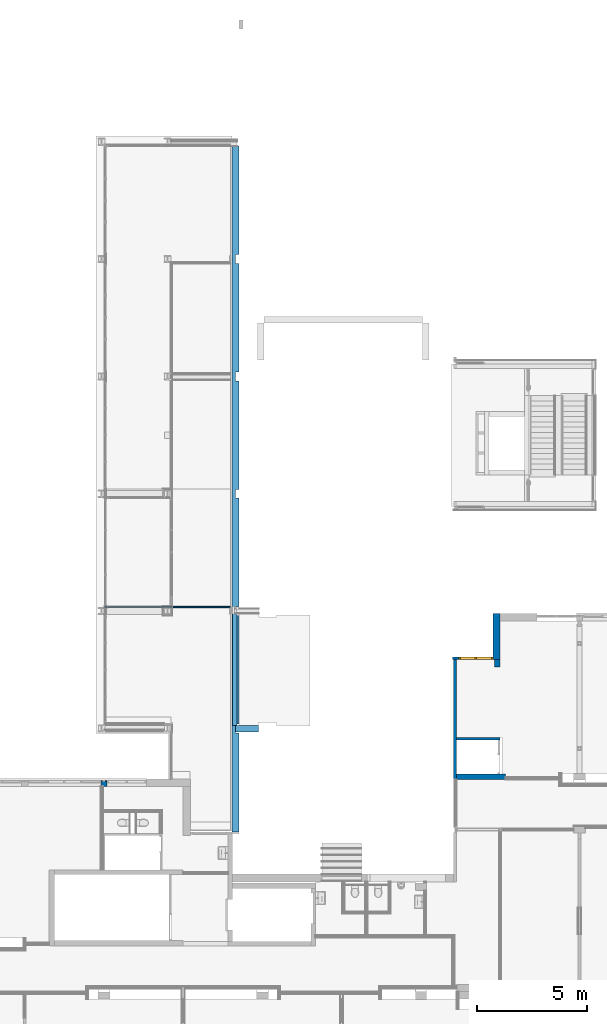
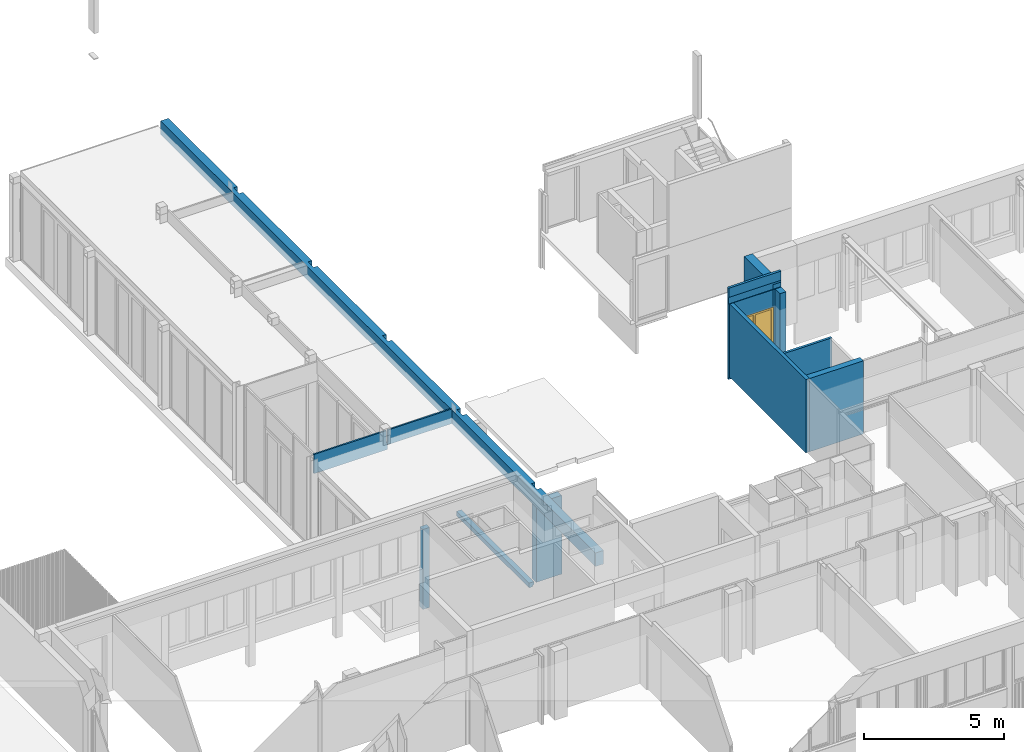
# One storey, part 48 of 99: 12 walls, 1 window, 1 opening.
"""IFC2X3 building model written with IfcOpenShell, lengths in millimetres."""

from ifc_helpers import new_model, entity, si_unit, converted_unit, derived_unit, money_unit, direction, frame, origin_with_axes, place, context, subcontext, project, spatial, open_shell, faceted_brep, surface_model, material, type_object, element, fill, save


model = new_model("IFC2X3")

# Units and contexts
model_context = context("Model", 3, precision=0.01, world=origin_with_axes(), true_north=direction((0.0, 1.0)))
body_context = subcontext(model_context, "Body", "Model", "MODEL_VIEW")
ifc_project = project(units=[si_unit("LENGTHUNIT", "METRE", prefix="MILLI"), si_unit("AREAUNIT", "SQUARE_METRE"), si_unit("VOLUMEUNIT", "CUBIC_METRE"), converted_unit("PLANEANGLEUNIT", "DEGREE", entity("IfcPlaneAngleMeasure", 0.0174532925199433), si_unit("PLANEANGLEUNIT", "RADIAN"), dimensions=[0, 0, 0, 0, 0, 0, 0]), money_unit("EUR"), converted_unit("TIMEUNIT", "Year", entity("IfcTimeMeasure", 31557600.0), si_unit("TIMEUNIT", "SECOND"), dimensions=[0, 0, 1, 0, 0, 0, 0]), si_unit("MASSUNIT", "GRAM", prefix="KILO"), si_unit("THERMODYNAMICTEMPERATUREUNIT", "DEGREE_CELSIUS"), si_unit("LUMINOUSINTENSITYUNIT", "LUMEN"), si_unit("ENERGYUNIT", "JOULE", prefix="MEGA"), derived_unit("THERMALCONDUCTANCEUNIT", [(si_unit("POWERUNIT", "WATT"), 1), (si_unit("LENGTHUNIT", "METRE"), -1), (si_unit("THERMODYNAMICTEMPERATUREUNIT", "KELVIN"), -1)]), derived_unit("SPECIFICHEATCAPACITYUNIT", [(si_unit("ENERGYUNIT", "JOULE"), 1), (si_unit("MASSUNIT", "GRAM", prefix="KILO"), -1), (si_unit("THERMODYNAMICTEMPERATUREUNIT", "KELVIN"), -1)]), derived_unit("MASSDENSITYUNIT", [(si_unit("MASSUNIT", "GRAM", prefix="KILO"), 1), (si_unit("VOLUMEUNIT", "CUBIC_METRE"), -1)])], contexts=[model_context])

# Site, building, storey
site_placement = place(None, origin_with_axes())
site = spatial("IfcSite", under=ifc_project, at=site_placement, Name="Site", CompositionType="ELEMENT")
building_placement = place(site_placement, origin_with_axes())
building = spatial("IfcBuilding", under=site, at=building_placement, Name="Naam gebouw", CompositionType="ELEMENT")
storey_placement = place(building_placement, frame((0.0, 0.0, 7650.0), z_axis=(0.0, 0.0, 1.0), x_axis=(1.0, 0.0, 0.0)))
storey = spatial("IfcBuildingStorey", under=building, at=storey_placement, Name="2e verdieping N", CompositionType="ELEMENT", Elevation=7650.0)

# Walls
ifc_material_1 = material(Name="ALG - CONSTRUCTIEF")
wall_type_1 = type_object("IfcWallType", Name="ALG - CONSTRUCTIEF 150", PredefinedType="NOTDEFINED")
wall_1_placement = place(storey_placement, frame((30425.0, 25760.89702607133, -99.99999999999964), z_axis=(0.0, 0.0, 1.0), x_axis=(0.0, -1.0, 0.0)))
element("IfcWall", 1, at=wall_1_placement, inside=storey, type_object=wall_type_1, material=ifc_material_1, Name="_Wand-x", context=body_context, shape_type="Brep", body=[
    faceted_brep([(0.0, -149.9999999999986, 99.99999999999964), (0.0, -149.9999999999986, 3299.999999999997), (0.0, 0.0, 3299.999999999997), (0.0, 0.0, 99.99999999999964), (5459.984600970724, -150.0000000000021, 99.99999999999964), (5459.984600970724, -150.0000000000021, 3299.999999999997), (5459.984600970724, 0.0, 3299.999999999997), (5459.984600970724, 0.0, 99.99999999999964)], [[[0, 1, 2, 3]], [[4, 5, 1, 0]], [[5, 6, 2, 1]], [[3, 2, 6, 7]], [[4, 0, 3, 7]], [[7, 6, 5, 4]]]),
])
wall_type_2 = type_object("IfcWallType", Name="ALG - CONSTRUCTIEF 100", PredefinedType="NOTDEFINED")
wall_2_placement = place(storey_placement, frame((32299.99999999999, 22106.91242510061, -99.99999999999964), z_axis=(0.0, 0.0, 1.0), x_axis=(-1.0, 0.0, 0.0)))
element("IfcWall", 2, at=wall_2_placement, inside=storey, type_object=wall_type_2, material=ifc_material_1, Name="_Wand-x", context=body_context, shape_type="Brep", body=[
    faceted_brep([(1874.999999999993, -100.0000000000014, 99.99999999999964), (1874.999999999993, -100.0000000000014, 3299.999999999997), (-100.0000000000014, -100.0000000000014, 3299.999999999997), (-100.0000000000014, -100.0000000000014, 99.99999999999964), (1874.999999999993, 0.0, 99.99999999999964), (1874.999999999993, 0.0, 3299.999999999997), (-100.0000000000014, 0.0, 3299.999999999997), (-100.0000000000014, 0.0, 99.99999999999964)], [[[0, 1, 2, 3]], [[4, 5, 1, 0]], [[5, 6, 2, 1]], [[3, 2, 6, 7]], [[4, 0, 3, 7]], [[7, 6, 5, 4]]]),
])

# Wall, opening, window
wall_3_placement = place(storey_placement, frame((32399.99999999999, 25760.89702607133, -99.99999999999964), z_axis=(0.0, 0.0, 1.0), x_axis=(-1.0, 0.0, 0.0)))
wall_3 = element("IfcWall", 3, at=wall_3_placement, inside=storey, type_object=wall_type_2, material=ifc_material_1, Name="_Wand-x", context=body_context, shape_type="Brep", body=[
    faceted_brep([(329.9999999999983, 0.0, 2540.000000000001), (329.9999999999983, -100.0000000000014, 2540.000000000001), (329.9999999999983, -100.0000000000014, 3500.0), (329.9999999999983, -20.51750883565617, 3500.0), (329.9999999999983, -20.51750883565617, 3299.999999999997), (329.9999999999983, 0.0, 3299.999999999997), (1874.999999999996, -100.0000000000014, 2540.000000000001), (1874.999999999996, 0.0, 2540.000000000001), (1874.999999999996, -100.0000000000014, 820.0000000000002), (329.9999999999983, -100.0000000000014, 820.0000000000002), (329.9999999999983, -100.0000000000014, 0.0), (2163.999999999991, -100.0000000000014, 0.0), (2163.999999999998, -100.0000000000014, 4000.0), (0.0, -100.0000000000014, 4000.0), (0.0, -100.0000000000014, 3500.0), (0.0, -20.51750883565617, 3500.0), (2163.999999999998, -20.51750883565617, 3599.999999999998), (2163.999999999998, -20.51750883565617, 3299.999999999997), (0.0, -20.51750883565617, 3599.999999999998), (2163.999999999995, 0.0, 3299.999999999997), (2163.999999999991, 0.0, 1139.999999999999), (2163.999999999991, 0.0, 99.99999999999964), (329.9999999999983, 0.0, 99.99999999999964), (329.9999999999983, 0.0, 820.0000000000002), (1874.999999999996, 0.0, 820.0000000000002), (329.9999999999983, -20.51750883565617, 99.99999999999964), (329.9999999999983, -20.51750883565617, 0.0), (2163.999999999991, -20.51750883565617, 0.0), (2163.999999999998, 0.0, 3599.999999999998), (2163.999999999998, 0.0, 4000.0), (2163.999999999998, -20.51750883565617, 99.99999999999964), (0.0, 0.0, 4000.0), (0.0, 0.0, 3599.999999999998)], [[[0, 1, 2, 3, 4, 5]], [[6, 1, 0, 7]], [[8, 9, 10, 11, 12, 13, 14, 2, 1, 6]], [[15, 3, 2, 14]], [[16, 17, 4, 3, 15, 18]], [[5, 4, 17, 19]], [[7, 0, 5, 19, 20, 21, 22, 23, 24]], [[8, 6, 7, 24]], [[23, 9, 8, 24]], [[9, 23, 22, 25, 26, 10]], [[26, 27, 11, 10]], [[21, 20, 19, 17, 16, 28, 29, 12, 11, 27, 30]], [[13, 12, 29, 31]], [[14, 13, 31, 32, 18, 15]], [[18, 32, 28, 16]], [[25, 22, 21, 30]], [[26, 25, 30, 27]], [[28, 32, 31, 29]]]),
])
opening_placement = place(wall_3_placement, frame((1102.499999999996, 0.0, 820.0000000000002), z_axis=(0.0, 0.0, 1.0), x_axis=(1.0, 0.0, 0.0)))
opening = element("IfcOpeningElement", 4, at=opening_placement, cuts=wall_3, Name="_Merk-050", context=body_context, shape_type="Brep", body=[
    faceted_brep([(772.5000000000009, 1.000000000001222, 1720.000000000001), (772.5000000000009, 1.000000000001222, 0.0), (-772.4999999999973, 1.000000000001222, 0.0), (-772.4999999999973, 1.000000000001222, 1720.000000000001), (772.5000000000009, -101.0000000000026, 1720.000000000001), (772.5000000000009, -101.0000000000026, 0.0), (-772.4999999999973, -101.0000000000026, 0.0), (-772.4999999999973, -101.0000000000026, 1720.000000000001)], [[[0, 1, 2, 3]], [[4, 5, 1, 0]], [[5, 6, 2, 1]], [[6, 7, 3, 2]], [[7, 4, 0, 3]], [[6, 5, 4, 7]]]),
])
window_style = type_object("IfcWindowStyle", Name="R2 bl ol 26", ConstructionType="NOTDEFINED", OperationType="DOUBLE_PANEL_VERTICAL", ParameterTakesPrecedence=False, Sizeable=False)
window_placement = place(opening_placement, frame((-772.4999999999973, 0.0, 0.0), z_axis=(0.0, 0.0, 1.0), x_axis=(1.0, 0.0, 0.0)))
window = element("IfcWindow", 5, at=window_placement, inside=storey, type_object=window_style, Name="_Merk-050", ObjectType="WINDOW", OverallHeight=1720.0, OverallWidth=1545.0, context=body_context, shape_type="SurfaceModel", body=[
    faceted_brep([(67.00000000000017, -100.0000000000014, 1653.0), (67.00000000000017, 13.99999999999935, 1653.0), (0.0, 13.99999999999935, 1653.0), (0.0, -100.0000000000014, 1653.0), (67.00000000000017, -100.0000000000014, 67.00000000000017), (67.00000000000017, 13.99999999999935, 67.00000000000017), (0.0, 13.99999999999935, 67.00000000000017), (0.0, -100.0000000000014, 67.00000000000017)], [[[0, 1, 2, 3]], [[4, 5, 1, 0]], [[1, 5, 6, 2]], [[3, 2, 6, 7]], [[0, 3, 7, 4]], [[7, 6, 5, 4]]]),
    faceted_brep([(1477.999999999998, -100.0000000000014, 67.00000000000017), (1477.999999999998, 13.99999999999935, 67.00000000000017), (1544.999999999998, 13.99999999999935, 67.00000000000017), (1544.999999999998, -100.0000000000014, 67.00000000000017), (1477.999999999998, -100.0000000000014, 1653.0), (1477.999999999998, 13.99999999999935, 1653.0), (1544.999999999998, 13.99999999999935, 1653.0), (1544.999999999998, -100.0000000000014, 1653.0)], [[[0, 1, 2, 3]], [[4, 5, 1, 0]], [[1, 5, 6, 2]], [[3, 2, 6, 7]], [[0, 3, 7, 4]], [[7, 6, 5, 4]]]),
    faceted_brep([(738.9999999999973, -100.0000000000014, 67.00000000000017), (738.9999999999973, 13.99999999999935, 67.00000000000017), (805.9999999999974, 13.99999999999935, 67.00000000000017), (805.9999999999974, -100.0000000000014, 67.00000000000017), (738.9999999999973, -100.0000000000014, 1653.0), (738.9999999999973, 13.99999999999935, 1653.0), (805.9999999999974, 13.99999999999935, 1653.0), (805.9999999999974, -100.0000000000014, 1653.0)], [[[0, 1, 2, 3]], [[4, 5, 1, 0]], [[1, 5, 6, 2]], [[3, 2, 6, 7]], [[0, 3, 7, 4]], [[7, 6, 5, 4]]]),
    faceted_brep([(67.00000000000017, -100.0000000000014, 67.00000000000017), (67.00000000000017, 13.99999999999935, 67.00000000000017), (0.0, 13.99999999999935, 67.00000000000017), (0.0, -100.0000000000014, 67.00000000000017), (738.9999999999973, -100.0000000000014, 67.00000000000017), (738.9999999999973, 13.99999999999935, 67.00000000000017), (805.9999999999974, 13.99999999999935, 67.00000000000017), (1477.999999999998, 13.99999999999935, 67.00000000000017), (1544.999999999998, 13.99999999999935, 67.00000000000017), (1544.999999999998, 13.99999999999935, 0.0), (0.0, 13.99999999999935, 0.0), (0.0, -100.0000000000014, 0.0), (1544.999999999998, -100.0000000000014, 0.0), (1544.999999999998, -100.0000000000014, 67.00000000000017), (1477.999999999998, -100.0000000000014, 67.00000000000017), (805.9999999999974, -100.0000000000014, 67.00000000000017)], [[[0, 1, 2, 3]], [[4, 5, 1, 0]], [[1, 5, 6, 7, 8, 9, 10, 2]], [[3, 2, 10, 11]], [[0, 3, 11, 12, 13, 14, 15, 4]], [[15, 6, 5, 4]], [[14, 7, 6, 15]], [[13, 8, 7, 14]], [[12, 9, 8, 13]], [[11, 10, 9, 12]]]),
    faceted_brep([(738.9999999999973, -100.0000000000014, 1653.0), (738.9999999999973, 13.99999999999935, 1653.0), (805.9999999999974, 13.99999999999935, 1653.0), (805.9999999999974, -100.0000000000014, 1653.0), (67.00000000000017, -100.0000000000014, 1653.0), (67.00000000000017, 13.99999999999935, 1653.0), (0.0, 13.99999999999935, 1653.0), (0.0, 13.99999999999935, 1720.000000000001), (1544.999999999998, 13.99999999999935, 1720.000000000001), (1544.999999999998, 13.99999999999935, 1653.0), (1477.999999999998, 13.99999999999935, 1653.0), (1477.999999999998, -100.0000000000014, 1653.0), (1544.999999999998, -100.0000000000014, 1653.0), (1544.999999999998, -100.0000000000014, 1720.000000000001), (0.0, -100.0000000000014, 1720.000000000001), (0.0, -100.0000000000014, 1653.0)], [[[0, 1, 2, 3]], [[4, 5, 1, 0]], [[1, 5, 6, 7, 8, 9, 10, 2]], [[3, 2, 10, 11]], [[0, 3, 11, 12, 13, 14, 15, 4]], [[15, 6, 5, 4]], [[14, 7, 6, 15]], [[13, 8, 7, 14]], [[12, 9, 8, 13]], [[11, 10, 9, 12]]]),
    surface_model("IfcShellBasedSurfaceModel", [(67.00000000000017, -50.00000000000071, 67.00000000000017), (738.9999999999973, -50.00000000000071, 67.00000000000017), (738.9999999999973, -50.00000000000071, 1653.0), (67.00000000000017, -50.00000000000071, 1653.0)], [open_shell([[[0, 1, 2, 3]]])]),
    surface_model("IfcShellBasedSurfaceModel", [(67.00000000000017, -30.00000000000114, 67.00000000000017), (67.00000000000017, -30.00000000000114, 1653.0), (738.9999999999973, -30.00000000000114, 1653.0), (738.9999999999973, -30.00000000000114, 67.00000000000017)], [open_shell([[[0, 1, 2, 3]]])]),
    surface_model("IfcShellBasedSurfaceModel", [(805.9999999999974, -50.00000000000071, 67.00000000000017), (1477.999999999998, -50.00000000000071, 67.00000000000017), (1477.999999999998, -50.00000000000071, 1653.0), (805.9999999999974, -50.00000000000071, 1653.0)], [open_shell([[[0, 1, 2, 3]]])]),
    surface_model("IfcShellBasedSurfaceModel", [(805.9999999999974, -30.00000000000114, 67.00000000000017), (805.9999999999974, -30.00000000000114, 1653.0), (1477.999999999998, -30.00000000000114, 1653.0), (1477.999999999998, -30.00000000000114, 67.00000000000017)], [open_shell([[[0, 1, 2, 3]]])]),
])
fill(opening, window)

# Walls
wall_type_3 = type_object("IfcWallType", Name="ALG - CONSTRUCTIEF 330", PredefinedType="NOTDEFINED")
wall_4_placement = place(storey_placement, frame((32399.99999999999, 27505.91242510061, -99.99999999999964), z_axis=(0.0, 0.0, 1.0), x_axis=(0.0, -1.0, 0.0)))
element("IfcWall", 6, at=wall_4_placement, inside=storey, type_object=wall_type_3, material=ifc_material_1, Name="_Wand-x", context=body_context, shape_type="Brep", body=[
    faceted_brep([(-329.9999999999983, -329.9999999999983, 3500.0), (1724.497890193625, -329.9999999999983, 3500.0), (1724.497890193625, 0.0, 3500.0), (-329.9999999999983, 0.0, 3500.0), (1745.015399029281, -329.9999999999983, 3299.999999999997), (1724.497890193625, -329.9999999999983, 3299.999999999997), (-329.9999999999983, -329.9999999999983, 0.0), (1724.497890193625, -329.9999999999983, 0.0), (1724.497890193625, -329.9999999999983, 99.99999999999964), (1745.015399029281, -329.9999999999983, 99.99999999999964), (1724.497890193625, 0.0, 3299.999999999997), (1745.015399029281, 0.0, 3299.999999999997), (1745.015399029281, 0.0, 99.99999999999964), (1724.497890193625, 0.0, 99.99999999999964), (1724.497890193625, 0.0, 0.0), (-329.9999999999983, 0.0, 0.0)], [[[0, 1, 2, 3]], [[4, 5, 1, 0, 6, 7, 8, 9]], [[5, 10, 2, 1]], [[2, 10, 11, 12, 13, 14, 15, 3]], [[15, 6, 0, 3]], [[4, 11, 10, 5]], [[15, 14, 7, 6]], [[7, 14, 13, 8]], [[8, 13, 12, 9]], [[12, 11, 4, 9]]]),
])
wall_5_placement = place(storey_placement, frame((20536.00000000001, 49075.9124251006, 0.0), z_axis=(0.0, 0.0, 1.0), x_axis=(0.0, -1.0, 0.0)))
element("IfcWall", 7, at=wall_5_placement, inside=storey, type_object=wall_type_3, material=ifc_material_1, Name="_Wand-x", context=body_context, shape_type="Brep", body=[
    faceted_brep([(5329.999999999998, 0.0, 589.9999999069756), (5329.999999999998, -150.0000000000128, 589.9999999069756), (4929.999999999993, -150.0000000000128, 589.9999999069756), (4929.999999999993, 0.0, 589.9999999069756), (0.0, 0.0, 589.9999999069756), (0.0, -329.9999999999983, 589.9999999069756), (31151.16119858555, -330.0000000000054, 589.9999999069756), (31151.16119858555, 0.0, 589.9999999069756), (26655.81461670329, 0.0, 589.9999999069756), (26655.81461670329, -150.0000000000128, 589.9999999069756), (26255.81461670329, -150.0000000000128, 589.9999999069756), (26255.81461670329, 0.0, 589.9999999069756), (21319.99999999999, 0.0, 589.9999999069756), (21319.99999999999, -150.0000000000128, 589.9999999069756), (20919.99999999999, -150.0000000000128, 589.9999999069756), (20919.99999999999, 0.0, 589.9999999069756), (15989.99999999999, 0.0, 589.9999999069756), (15989.99999999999, -150.0000000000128, 589.9999999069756), (15589.99999999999, -150.0000000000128, 589.9999999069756), (15589.99999999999, 0.0, 589.9999999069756), (10660.0, 0.0, 589.9999999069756), (10660.0, -150.0000000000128, 589.9999999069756), (10259.99999999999, -150.0000000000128, 589.9999999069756), (10259.99999999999, 0.0, 589.9999999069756), (5329.999999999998, -150.0000000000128, 0.0), (5329.999999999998, 0.0, 0.0), (4929.999999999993, -150.0000000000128, 0.0), (4929.999999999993, 0.0, 0.0), (0.0, 0.0, 0.0), (0.0, -329.9999999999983, 0.0), (31151.16119858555, -330.0000000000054, 0.0), (31151.16119858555, 0.0, 0.0), (26655.81461670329, 0.0, 0.0), (26655.81461670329, -150.0000000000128, 0.0), (26255.81461670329, -150.0000000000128, 0.0), (26255.81461670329, 0.0, 0.0), (21319.99999999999, 0.0, 0.0), (21319.99999999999, -150.0000000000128, 0.0), (20919.99999999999, -150.0000000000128, 0.0), (20919.99999999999, 0.0, 0.0), (15989.99999999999, 0.0, 0.0), (15989.99999999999, -150.0000000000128, 0.0), (15589.99999999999, -150.0000000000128, 0.0), (15589.99999999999, 0.0, 0.0), (10660.0, 0.0, 0.0), (10660.0, -150.0000000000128, 0.0), (10259.99999999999, -150.0000000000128, 0.0), (10259.99999999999, 0.0, 0.0), (21688.11863500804, -162.5000000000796, 0.0), (21853.88105573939, -162.5000000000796, 0.0), (21853.88105573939, -152.5000000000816, 0.0), (21688.11863500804, -152.5000000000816, 0.0), (25655.79166119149, -177.5000000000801, 0.0), (25821.55408192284, -177.5000000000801, 0.0), (25821.55408192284, -167.5000000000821, 0.0), (25655.79166119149, -167.5000000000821, 0.0), (21160.0, -162.5000000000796, 524.8670982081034), (21099.67269568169, -162.5000000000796, 445.1136258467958), (21160.0, -152.5000000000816, 524.8670982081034), (21099.67269568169, -152.5000000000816, 445.1136258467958), (26410.00002124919, -177.5000000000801, 445.1136258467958), (26349.67271693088, -177.5000000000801, 524.8670982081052), (26410.00002124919, -167.5000000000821, 445.1136258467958), (26349.67271693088, -167.5000000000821, 524.8670982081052)], [[[0, 1, 2, 3, 4, 5, 6, 7, 8, 9, 10, 11, 12, 13, 14, 15, 16, 17, 18, 19, 20, 21, 22, 23]], [[24, 1, 0, 25]], [[26, 2, 1, 24]], [[26, 27, 3, 2]], [[4, 3, 27, 28]], [[28, 29, 5, 4]], [[5, 29, 30, 6]], [[31, 7, 6, 30]], [[31, 32, 8, 7]], [[33, 9, 8, 32]], [[34, 10, 9, 33]], [[34, 35, 11, 10]], [[35, 36, 12, 11]], [[37, 13, 12, 36]], [[38, 14, 13, 37]], [[38, 39, 15, 14]], [[39, 40, 16, 15]], [[41, 17, 16, 40]], [[42, 18, 17, 41]], [[42, 43, 19, 18]], [[43, 44, 20, 19]], [[45, 21, 20, 44]], [[46, 22, 21, 45]], [[46, 47, 23, 22]], [[47, 25, 0, 23]], [[26, 24, 25, 47, 46, 45, 44, 43, 42, 41, 40, 39, 38, 37, 36, 35, 34, 33, 32, 31, 30, 29, 28, 27], [48, 49, 50, 51], [52, 53, 54, 55]], [[56, 49, 48, 57]], [[58, 50, 49, 56]], [[59, 51, 50, 58]], [[57, 48, 51, 59]], [[60, 53, 52, 61]], [[62, 54, 53, 60]], [[63, 55, 54, 62]], [[61, 52, 55, 63]], [[56, 57, 59, 58]], [[63, 62, 60, 61]]]),
])
wall_type_4 = type_object("IfcWallType", Name="ALG - CONSTRUCTIEF 250", PredefinedType="NOTDEFINED")
wall_6_placement = place(storey_placement, frame((30425.0, 20550.91242510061, -99.99999999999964), z_axis=(0.0, 0.0, 1.0), x_axis=(1.0, 0.0, 0.0)))
element("IfcWall", 8, at=wall_6_placement, inside=storey, type_object=wall_type_4, material=ifc_material_1, Name="_Wand-x", context=body_context, shape_type="Brep", body=[
    faceted_brep([(0.0, 0.0, 99.99999999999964), (0.0, 0.0, 3299.999999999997), (2224.999953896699, 0.0, 3299.999999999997), (2224.999953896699, 0.0, 99.99999999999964), (0.0, -250.0, 99.99999999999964), (0.0, -250.0, 3299.999999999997), (2224.999953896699, -250.0, 3299.999999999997), (2224.999953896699, -250.0, 99.99999999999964)], [[[0, 1, 2, 3]], [[4, 5, 1, 0]], [[5, 6, 2, 1]], [[3, 2, 6, 7]], [[4, 0, 3, 7]], [[7, 6, 5, 4]]]),
])
wall_7_placement = place(storey_placement, frame((32274.99999999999, 25420.91242510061, -99.99999999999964), z_axis=(0.0, 0.0, 1.0), x_axis=(0.0, 1.0, 0.0)))
element("IfcWall", 9, at=wall_7_placement, inside=storey, type_object=wall_type_4, material=ifc_material_1, Name="_Wand-x", context=body_context, shape_type="Brep", body=[
    faceted_brep([(339.9846009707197, 125.0, 99.99999999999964), (339.9846009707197, 125.0, 3299.999999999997), (339.9846009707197, -125.0, 3299.999999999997), (339.9846009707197, -125.0, 99.99999999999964), (0.0, 125.0, 99.99999999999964), (0.0, 125.0, 3299.999999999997), (0.0, -125.0, 3299.999999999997), (0.0, -125.0, 99.99999999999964)], [[[0, 1, 2, 3]], [[4, 5, 1, 0]], [[5, 6, 2, 1]], [[3, 2, 6, 7]], [[4, 0, 3, 7]], [[7, 6, 5, 4]]]),
])
ifc_material_2 = material(Name="ALG - GEVEL")
wall_type_5 = type_object("IfcWallType", Name="ALG - GEVEL 260", PredefinedType="NOTDEFINED")
wall_8_placement = place(storey_placement, frame((14262.5, 20255.8945279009, -1057.31604435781), z_axis=(0.0, 0.0, 1.0), x_axis=(1.0, 0.0, 0.0)))
element("IfcWall", 10, at=wall_8_placement, inside=storey, type_object=wall_type_5, material=ifc_material_2, Name="_Wand-x", context=body_context, shape_type="Brep", body=[
    faceted_brep([(0.0, 3.904432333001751e-09, 1777.316044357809), (275.0000000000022, 3.904432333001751e-09, 1777.316044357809), (275.0000000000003, 0.0, 0.0), (0.0, 0.0, 0.0), (0.0, -43.9999999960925, 1777.316044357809), (275.0000000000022, -43.9999999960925, 1777.316044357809), (275.0000000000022, -43.9999999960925, 3497.316044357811), (275.0000000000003, -259.999999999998, 3497.316044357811), (275.0000000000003, -260.0000000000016, 1057.31604435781), (275.0000000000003, -259.9821028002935, 1057.31604435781), (275.0000000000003, -259.9821028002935, 757.3160443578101), (275.0000000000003, -260.0000000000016, 757.3160443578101), (275.0000000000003, -260.0000000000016, 0.0), (0.0, -260.0000000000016, 0.0), (0.0, -43.9999999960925, 3497.316044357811), (0.0, -260.0000000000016, 757.3160443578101), (0.0, -259.9821028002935, 757.3160443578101), (0.0, -259.9821028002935, 1057.31604435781), (0.0, -260.0000000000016, 1057.31604435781), (0.0, -259.999999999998, 3497.316044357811)], [[[0, 1, 2, 3]], [[0, 4, 5, 1]], [[1, 5, 6, 7, 8, 9, 10, 11, 12, 2]], [[2, 12, 13, 3]], [[14, 4, 0, 3, 13, 15, 16, 17, 18, 19]], [[4, 14, 6, 5]], [[6, 14, 19, 7]], [[8, 7, 19, 18]], [[8, 18, 17, 9]], [[9, 17, 16, 10]], [[10, 16, 15, 11]], [[15, 13, 12, 11]]]),
])
ifc_material_3 = material(Name="IFC Building Material")
wall_type_6 = type_object("IfcWallType", Name="Basic Wall:31_WA_ALU_PANEEL", PredefinedType="STANDARD")
wall_9_placement = place(storey_placement, frame((17473.50000004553, 28138.41242634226, 99.99999999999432), z_axis=(0.0, 0.0, 1.0), x_axis=(1.0, 0.0, 0.0)))
element("IfcWall", 11, at=wall_9_placement, inside=storey, type_object=wall_type_6, material=ifc_material_3, Name="Basic Wall:31_WA_ALU_PANEEL", context=body_context, shape_type="Brep", body=[
    faceted_brep([(0.0, -32.5, 0.0), (2667.49999999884, -32.5, 0.0), (2667.49999999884, -32.5, 640.0000000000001), (32.50000000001, -32.5, 640.0000000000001), (32.50000000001, -32.5, 100.0), (0.0, -32.5, 100.0), (0.0, 32.5, 0.0), (2667.49999999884, 32.5, 0.0), (2667.49999999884, 32.5, 640.0000000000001), (32.5, 32.5, 640.0000000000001), (32.5, 32.5, 100.0), (0.0, 32.5, 100.0)], [[[0, 1, 2, 3, 4, 5]], [[1, 0, 6, 7]], [[2, 1, 7, 8]], [[3, 2, 8, 9]], [[4, 3, 9, 10]], [[4, 10, 11, 5]], [[0, 5, 11, 6]], [[6, 11, 10, 9, 8, 7]]]),
])
wall_10_placement = place(storey_placement, frame((14442.00000000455, 28138.41242628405, -99.99999999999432), z_axis=(0.0, 0.0, 1.0), x_axis=(1.0, 0.0, 0.0)))
element("IfcWall", 12, at=wall_10_placement, inside=storey, type_object=wall_type_6, material=ifc_material_3, Name="Basic Wall:31_WA_ALU_PANEEL", context=body_context, shape_type="Brep", body=[
    faceted_brep([(0.0, -32.5, 0.0), (3031.50000000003, -32.5, 0.0), (3031.50000000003, -32.5, 200.0), (3031.50000000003, -32.5, 300.0000000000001), (2999.0, -32.5, 300.0000000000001), (2999.0, -32.5, 840.0000000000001), (0.0, -32.5, 840.0000000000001), (0.0, 32.5, 0.0), (3031.50000000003, 32.5, 0.0), (3031.50000000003, 32.5, 200.0), (3031.50000000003, 32.5, 300.0000000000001), (2999.0, 32.5, 300.0000000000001), (2999.0, 32.5, 840.0000000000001), (0.0, 32.5, 840.0000000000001)], [[[0, 1, 2, 3, 4, 5, 6]], [[1, 0, 7, 8]], [[3, 2, 1, 8, 9, 10]], [[11, 4, 3, 10]], [[5, 4, 11, 12]], [[6, 5, 12, 13]], [[0, 6, 13, 7]], [[7, 13, 12, 11, 10, 9, 8]]]),
])
ifc_material_4 = material(Name="beton_ wanden")
wall_type_7 = type_object("IfcWallType", Name="Basic Wall:NLRS_28_massieve betonwand 200mm", PredefinedType="STANDARD")
wall_11_placement = place(storey_placement, frame((20341.00000003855, 22755.92805130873, -3870.000000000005), z_axis=(0.0, 0.0, 1.0), x_axis=(0.0, 1.0, 0.0)))
element("IfcWall", 13, at=wall_11_placement, inside=storey, type_object=wall_type_7, material=ifc_material_4, Name="Basic Wall:NLRS_28_massieve betonwand 200mm", context=body_context, shape_type="Brep", body=[
    faceted_brep([(4999.984373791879, -100.0000000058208, 70.00000000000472), (5074.984373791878, -100.0000000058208, 70.00000000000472), (5074.984373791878, -100.0000000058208, 170.0000000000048), (5194.984375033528, -100.0000000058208, 170.0000000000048), (5194.984375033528, -100.0000000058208, 200.0000000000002), (0.0, -100.0000000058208, 200.0000000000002), (0.0, -100.0000000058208, 70.00000000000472), (64.16975708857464, -100.0000000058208, 70.00000000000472), (64.16975708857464, -100.0000000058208, 0.0), (4999.984373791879, -100.0000000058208, 0.0), (4999.984373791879, -44.99999996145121, 70.00000000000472), (5074.984373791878, -44.99999996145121, 70.00000000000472), (5074.984373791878, -44.99999996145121, 170.0000000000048), (5194.984375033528, -44.99999996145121, 170.0000000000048), (5194.984375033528, -44.99999996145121, 0.0), (5194.984375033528, 100.0000000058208, 0.0), (5194.984375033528, 100.0000000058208, 200.0000000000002), (0.0, 100.0000000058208, 200.0000000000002), (0.0, 100.0000000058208, 0.0), (0.0, -44.99999996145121, 0.0), (0.0, -44.99999996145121, 70.00000000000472), (64.16975708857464, -44.99999996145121, 70.00000000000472), (64.16975708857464, -44.99999996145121, 0.0), (4999.984373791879, -44.99999996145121, 0.0)], [[[0, 1, 2, 3, 4, 5, 6, 7, 8, 9]], [[10, 11, 1, 0]], [[12, 2, 1, 11]], [[12, 13, 3, 2]], [[3, 13, 14, 15, 16, 4]], [[16, 17, 5, 4]], [[18, 19, 20, 6, 5, 17]], [[20, 21, 7, 6]], [[21, 22, 8, 7]], [[15, 14, 23, 9, 8, 22, 19, 18]], [[23, 10, 0, 9]], [[14, 13, 12, 11, 10, 23]], [[15, 18, 17, 16]], [[21, 20, 19, 22]]]),
])
ifc_material_5 = material(Name="Bestaand metselwerk")
wall_type_8 = type_object("IfcWallType", Name="Basic Wall:NLRS_20_bestaand 300mm", PredefinedType="STANDARD")
wall_12_placement = place(storey_placement, frame((20371.00000003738, 22605.92805128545, -3500.0), z_axis=(0.0, 0.0, 1.0), x_axis=(1.0, 0.0, 0.0)))
element("IfcWall", 14, at=wall_12_placement, inside=storey, type_object=wall_type_8, material=ifc_material_5, Name="Basic Wall:NLRS_20_bestaand 300mm", context=body_context, shape_type="Brep", body=[
    faceted_brep([(0.0, -150.0000000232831, 3440.000000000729), (1054.999999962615, -150.0000000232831, 3440.000000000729), (1054.999999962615, 150.0000000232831, 3440.000000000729), (0.0, 150.0000000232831, 3440.000000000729), (0.0, -150.0000000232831, 0.0), (1054.999999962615, -150.0000000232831, 0.0), (1054.999999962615, 150.0000000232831, 0.0), (0.0, 150.0000000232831, 0.0), (12.49999996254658, 150.0000000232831, 121.7398941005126), (2.499999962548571, 150.0000000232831, 121.7398941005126), (2.499999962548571, 150.0000000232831, 60.03459801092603), (12.49999996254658, 150.0000000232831, 60.03459801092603), (12.49999996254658, 120.3116568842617, 99.2829695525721), (2.499999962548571, 120.3116568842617, 99.2829695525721)], [[[0, 1, 2, 3]], [[4, 5, 1, 0]], [[5, 6, 2, 1]], [[3, 2, 6, 7], [8, 9, 10, 11]], [[4, 0, 3, 7]], [[7, 6, 5, 4]], [[12, 13, 9, 8]], [[9, 13, 10]], [[13, 12, 11, 10]], [[11, 12, 8]]]),
])

save(model, "model.ifc")
